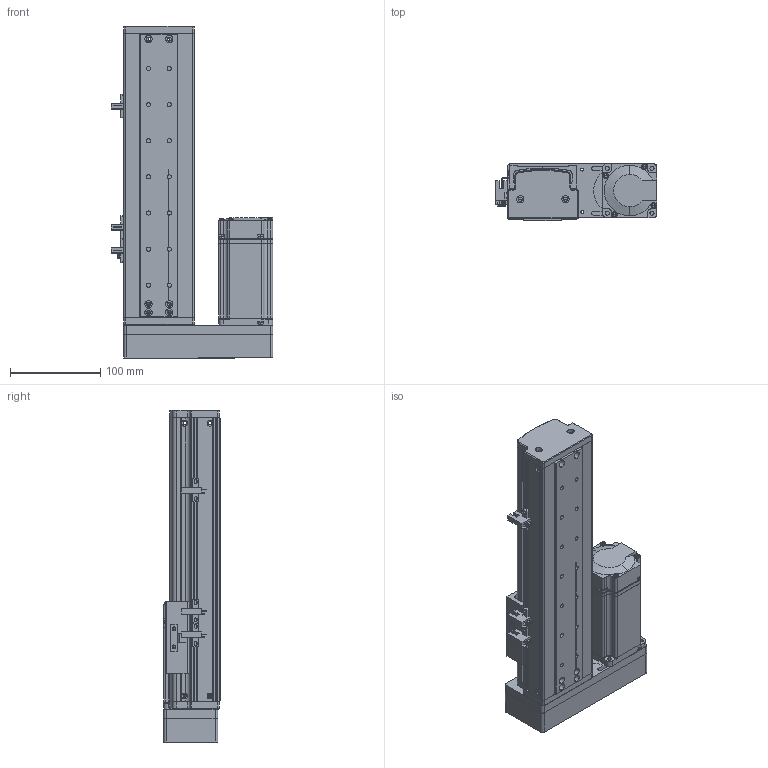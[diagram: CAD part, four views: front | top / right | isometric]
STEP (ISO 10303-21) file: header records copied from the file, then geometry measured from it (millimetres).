
FILE_DESCRIPTION (( 'STEP AP214' ), '1' );
FILE_NAME ('KSD75S-S160-ML-CM.STEP', '2019-10-18T06:54:32', ( '微软用户' ), ( '微软中国' ), 'SwSTEP 2.0', 'SolidWorks 2014', '' );
FILE_SCHEMA (( 'AUTOMOTIVE_DESIGN' ));
Length unit declared in the file: millimetre
Products named in the file (13): KSD75S-S160-ML-CM; MGW15H賑寢160俴最; MGW15H賑寢160俴最 ; 75遵賑雄釱; 75遵耀郪耜啣-160俴最; 75裔啣-160俴最; ヶ傷啣; 綴傷啣 ; U倰嫖萇EEㄜSX672; 覜茼え100遵圉猾敕; 75宽马达安装板连板左右折丝杆; 75宽模组保护罩左右折; MHMD042G1CA_2_03
Assembly tree (15 placements, depth 3):
  KSD75S-S160-ML-CM
    MGW15H賑寢160俴最 
      MGW15H賑寢160俴最
    75遵賑雄釱
    75遵耀郪耜啣-160俴最  x2
    75裔啣-160俴最
    ヶ傷啣
    綴傷啣 
    U倰嫖萇EEㄜSX672  x3
    覜茼え100遵圉猾敕
    75宽马达安装板连板左右折丝杆
    75宽模组保护罩左右折
    MHMD042G1CA_2_03
Bounding box: 178.7 x 63 x 367.5 mm (x, y, z)
Volume: 612845.1 mm3; surface area: 383586.6 mm2
Topology: 13 solids, 14 shells, 1403 faces, 3994 edges, 2605 vertices
Faces by surface type: cylinder 643, plane 613, cone 129, bspline 18
Entity records: 45070 total; most frequent: CARTESIAN_POINT 8618, DIRECTION 6644, ORIENTED_EDGE 6268, EDGE_CURVE 3205, AXIS2_PLACEMENT_3D 2410, VERTEX_POINT 2123, VECTOR 1824, LINE 1824
